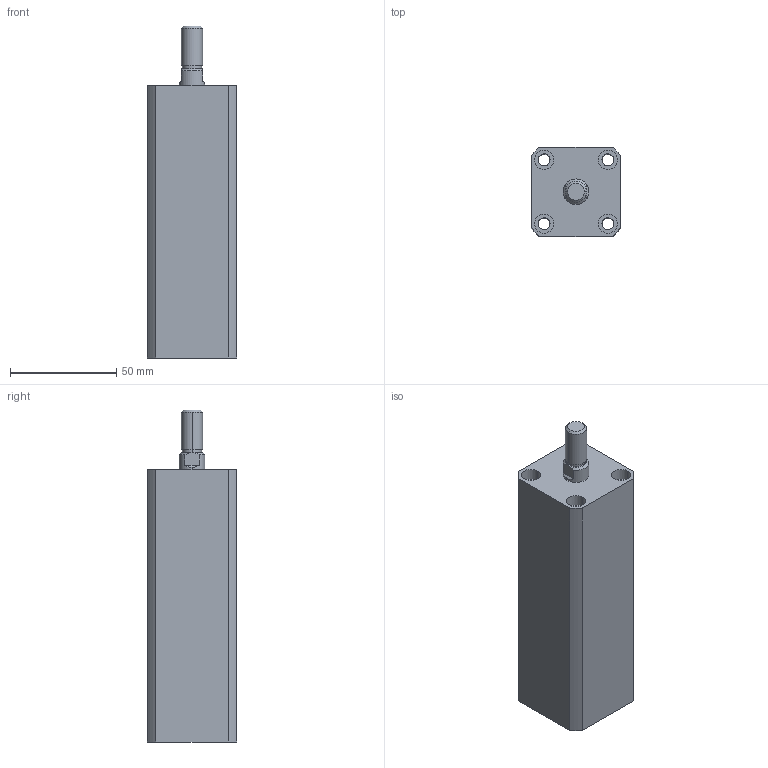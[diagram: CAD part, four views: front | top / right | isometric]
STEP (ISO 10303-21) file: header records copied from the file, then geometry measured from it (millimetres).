
FILE_DESCRIPTION (( 'STEP AP203' ), '1' );
FILE_NAME ('HTB-SDMB20-85W.STEP', '2019-10-09T00:10:24', ( '微软用户' ), ( '微软中国' ), 'SwSTEP 2.0', 'SolidWorks 2012', '' );
FILE_SCHEMA (( 'CONFIG_CONTROL_DESIGN' ));
Length unit declared in the file: millimetre
Products named in the file (3): HTB-SDMB20-85W; HTB-SDMB20-85W活塞杆; HTB-SDMB20-85掛极
Assembly tree (2 placements, depth 2):
  HTB-SDMB20-85W
    HTB-SDMB20-85掛极
    HTB-SDMB20-85W活塞杆
Bounding box: 42 x 42 x 156 mm (x, y, z)
Volume: 192621.3 mm3; surface area: 47094.3 mm2
Topology: 2 solids, 2 shells, 140 faces, 332 edges, 218 vertices
Faces by surface type: plane 66, cylinder 48, bspline 16, torus 6, cone 4
Entity records: 5129 total; most frequent: CARTESIAN_POINT 1587, ORIENTED_EDGE 664, DIRECTION 662, EDGE_CURVE 332, AXIS2_PLACEMENT_3D 241, VERTEX_POINT 218, LINE 180, VECTOR 180
